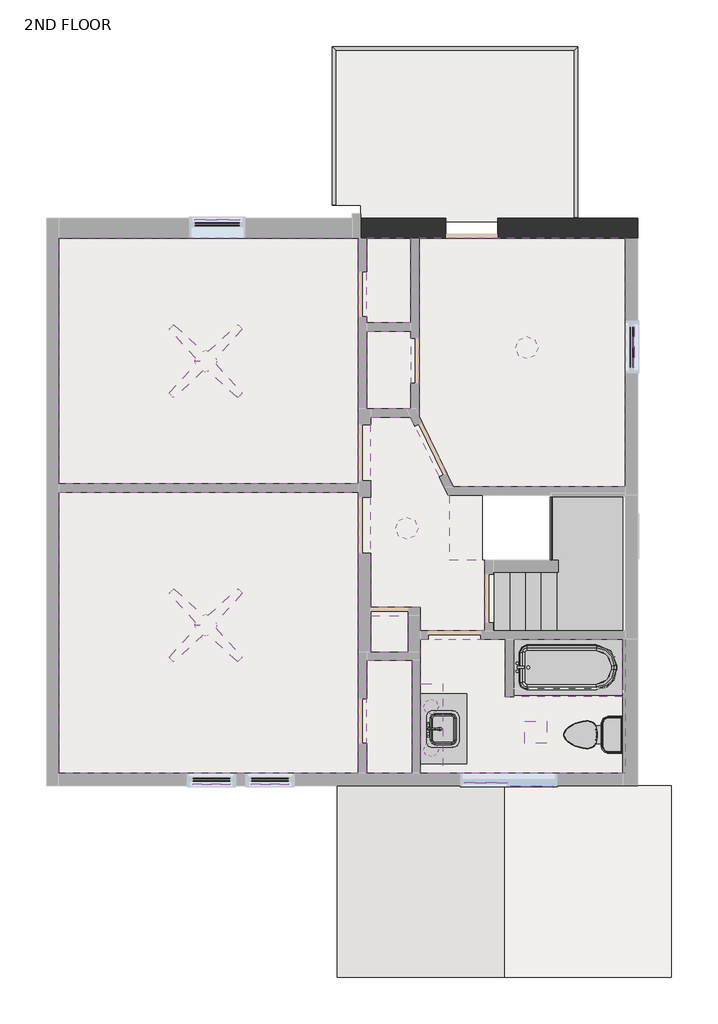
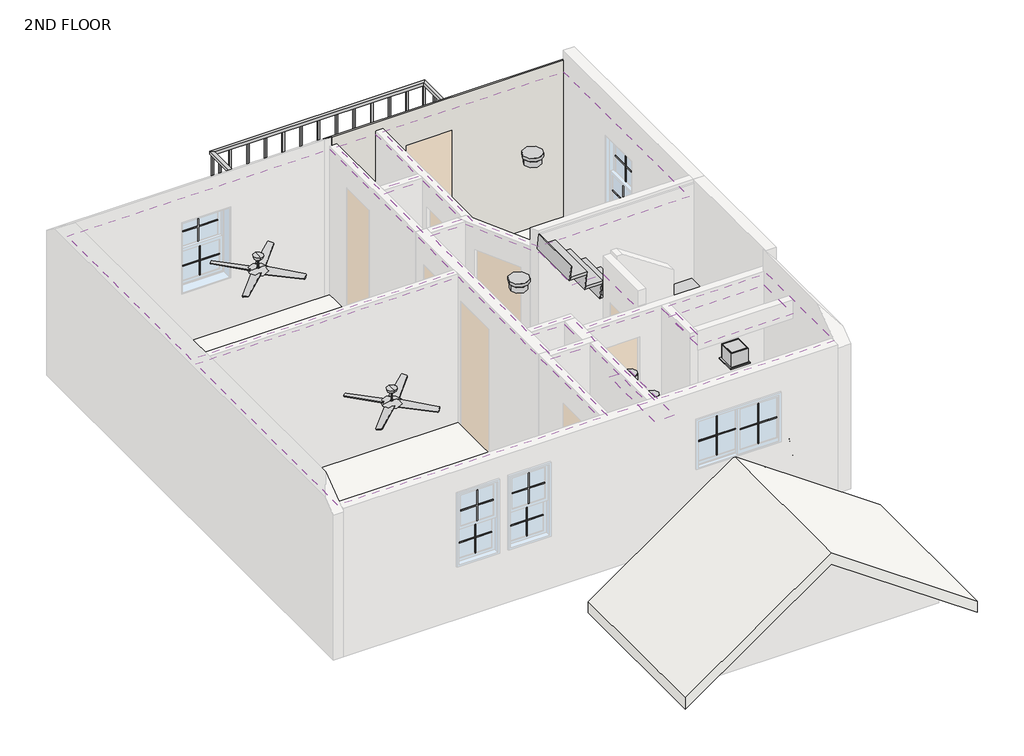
# One storey, part 2 of 2: 14 proxies, 11 coverings, 6 light fixtures, 3 flow terminals, 2 roofs, 1 railing, 1 slab, 1 stair flight, 1 wall.
"""IFC4 building model written with IfcOpenShell, lengths in millimetres."""

from ifc_helpers import new_model, si_unit, point, frame, frame_2d, origin, place, context, project, spatial, polyline, circle_curve, trimmed, segment, composite_curve, outline, extrude, faceted_brep, transform, mapped, element, save
from ifc_brep_helpers import plane_surface, revolved_surface, advanced_brep
from components import exhaust_fan_family1_d98d6599, muntin_pattern_2x2_muntin_pattern_2x2_6bac9242, muntin_pattern_2x2_muntin_pattern_2x2_3440c8d2, muntin_pattern_2x2_muntin_pattern_2x2_f87b2176, muntin_pattern_2x2_muntin_pattern_2x2_90c02736, muntin_pattern_2x2_muntin_pattern_2x2_b8ba09c9, bath_basin_500_x_440mm_22030706, bath_bathtub_m_tub_rectangular_3d_991a02ca, toilet_toilet_5cb52bd4, toilet_toilet_183bbd19, ceiling_fan_4_278a9ec8, light_fixture_03aafe97, light_fixture_643521e1, stair_flight_50mm_tread_25mm_nosing_13mm_riser_0b85ac9d

model = new_model("IFC4")

# Units and contexts
model_context = context("Model", 3, world=origin())
ifc_project = project(units=[si_unit("LENGTHUNIT", "METRE", prefix="MILLI")], contexts=[model_context])

# Site, building, storey
site = spatial("IfcSite", under=ifc_project)
building = spatial("IfcBuilding", under=site)
storey = spatial("IfcBuildingStorey", under=building, Name="2ND FLOOR", Elevation=2895.6)

# Proxies
placement = place(None, origin())
element("IfcBuildingElementProxy", 1, Name="Countertop- Rectangle shape base : 1525 x 762mm", ObjectType="Countertop- Rectangle shape base : 1525 x 762mm", at=placement, inside=storey, context=model_context, shape_type="SolidModel", body=[
    extrude(outline(polyline([(-344.1, -1028.7), (-991.8, -1028.7), (-991.8, -76.2), (-344.1, -76.2), (-344.1, -1028.7)]), holes=[composite_curve([segment(trimmed(circle_curve(frame_2d((-536.8499999, -719.9)), 88.8999999), [point((-536.8499999, -808.7999999))], [point((-447.9500001, -719.9))], True, "CARTESIAN"), True, "CONTINUOUS"), segment(polyline([(-447.9500001, -719.9), (-447.9500001, -393.1500671)]), True, "CONTINUOUS"), segment(trimmed(circle_curve(frame_2d((-532.3000672, -393.1500671)), 84.3500671), [point((-447.9500001, -393.1500671))], [point((-532.3000672, -308.8))], True, "CARTESIAN"), True, "CONTINUOUS"), segment(polyline([(-532.3000672, -308.8), (-824.4500001, -308.8)]), True, "CONTINUOUS"), segment(trimmed(circle_curve(frame_2d((-824.4500001, -372.3)), 63.5), [point((-824.4500001, -308.8))], [point((-887.9500001, -372.3))], True, "CARTESIAN"), True, "CONTINUOUS"), segment(polyline([(-887.9500001, -372.3), (-887.9500001, -745.2999999)]), True, "CONTINUOUS"), segment(trimmed(circle_curve(frame_2d((-824.4500001, -745.2999999)), 63.5), [point((-887.9500001, -745.2999999))], [point((-824.4500001, -808.7999999))], True, "CARTESIAN"), True, "CONTINUOUS"), segment(polyline([(-824.4500001, -808.7999999), (-536.8499999, -808.7999999)]), True, "CONTINUOUS")], self_intersect=False)]), frame((0.0, 0.0, 3771.9), z_axis=(0.0, 0.0, 1.0), x_axis=(1.0, 0.0, 0.0)), (0.0, 0.0, 1.0), 38.1),
    extrude(outline(polyline([(-871.15, -196.85), (-464.75, -196.85), (-464.75, -908.05), (-871.15, -908.05), (-871.15, -196.85)])), frame((0.0, 0.0, 2895.6), z_axis=(0.0, 0.0, 1.0), x_axis=(1.0, 0.0, 0.0)), (0.0, 0.0, 1.0), 101.6),
    advanced_brep(
    [(-972.75, -95.25, 2997.2), (-363.15, -95.25, 2997.2), (-363.15, -1009.65, 2997.2), (-972.75, -1009.65, 2997.2), (-972.75, -95.25, 3771.9), (-972.75, -1009.65, 3771.9), (-363.15, -1009.65, 3771.9), (-363.15, -95.25, 3771.9), (-447.9500001, -719.9, 3771.9), (-536.8499999, -808.7999999, 3771.9), (-824.4500001, -808.7999999, 3771.9), (-887.9500001, -745.2999999, 3771.9), (-887.9500001, -372.3, 3771.9), (-824.4500001, -308.8, 3771.9), (-532.3000672, -308.8, 3771.9), (-447.9500001, -393.1500671, 3771.9), (-536.8499999, -808.7999999, 3458.3380761), (-447.9500001, -719.9, 3458.3380761), (-447.9500001, -393.1500671, 3458.3380761), (-532.3000672, -308.8, 3458.3380761), (-824.4500001, -308.8, 3458.3380761), (-887.9500001, -372.3, 3458.3380761), (-887.9500001, -745.2999999, 3458.3380761), (-824.4500001, -808.7999999, 3458.3380761)],
    [
        (0, 1),
        (1, 2),
        (2, 3),
        (3, 0),
        (4, 5),
        (5, 6),
        (6, 7),
        (7, 4),
        (8, 9, circle_curve(frame((-536.8499999, -719.9, 3771.9), z_axis=(0.0, 0.0, -1.0), x_axis=(0.0, 1.0, 0.0)), 88.8999999)),
        (9, 10),
        (10, 11, circle_curve(frame((-824.4500001, -745.2999999, 3771.9), z_axis=(0.0, 0.0, -1.0), x_axis=(0.0, 1.0, 0.0)), 63.5)),
        (11, 12),
        (12, 13, circle_curve(frame((-824.4500001, -372.3, 3771.9), z_axis=(0.0, 0.0, -1.0), x_axis=(0.0, 1.0, 0.0)), 63.5)),
        (13, 14),
        (14, 15, circle_curve(frame((-532.3000672, -393.1500671, 3771.9), z_axis=(0.0, 0.0, -1.0), x_axis=(0.0, 1.0, 0.0)), 84.3500671)),
        (15, 8),
        (3, 5),
        (4, 0),
        (2, 6),
        (1, 7),
        (16, 17, circle_curve(frame((-536.8499999, -719.9, 3458.3380761), z_axis=(0.0, 0.0, 1.0), x_axis=(0.0, 1.0, 0.0)), 88.8999999)),
        (17, 18),
        (18, 19, circle_curve(frame((-532.3000672, -393.1500671, 3458.3380761), z_axis=(0.0, 0.0, 1.0), x_axis=(0.0, 1.0, 0.0)), 84.3500671)),
        (19, 20),
        (20, 21, circle_curve(frame((-824.4500001, -372.3, 3458.3380761), z_axis=(0.0, 0.0, 1.0), x_axis=(0.0, 1.0, 0.0)), 63.5)),
        (21, 22),
        (22, 23, circle_curve(frame((-824.4500001, -745.2999999, 3458.3380761), z_axis=(0.0, 0.0, 1.0), x_axis=(0.0, 1.0, 0.0)), 63.5)),
        (23, 16),
        (16, 9),
        (8, 17),
        (15, 18),
        (14, 19),
        (13, 20),
        (12, 21),
        (11, 22),
        (10, 23),
    ],
    [
        plane_surface(frame((-972.75, -1009.65, 2997.2), z_axis=(0.0, 0.0, -1.0), x_axis=(0.0, 1.0, 0.0))),
        plane_surface(frame((-972.75, -1009.65, 3771.9), z_axis=(0.0, 0.0, 1.0), x_axis=(0.0, -1.0, 0.0))),
        plane_surface(frame((-972.75, -95.25, 3771.9), z_axis=(-1.0, 0.0, 0.0), x_axis=(0.0, 0.0, -1.0))),
        plane_surface(frame((-972.75, -1009.65, 3771.9), z_axis=(0.0, -1.0, 0.0), x_axis=(0.0, 0.0, -1.0))),
        plane_surface(frame((-363.15, -1009.65, 3771.9), z_axis=(1.0, 0.0, 0.0), x_axis=(0.0, 0.0, -1.0))),
        plane_surface(frame((-363.15, -95.25, 3771.9), z_axis=(0.0, 1.0, 0.0), x_axis=(0.0, 0.0, -1.0))),
        plane_surface(frame((-536.8499999, -631.0000001, 3458.3380761), z_axis=(0.0, 0.0, 1.0), x_axis=(1.0, 0.0, 0.0))),
        revolved_surface(polyline([(-536.8499999, -631.0000001, 3771.9), (-536.8499999, -631.0000001, 3458.3380761)]), (-536.8499999, -719.9, 3458.3380761), (0.0, 0.0, 1.0)),
        plane_surface(frame((-447.9500001, -719.9, 3860.8), z_axis=(-1.0, 0.0, 0.0), x_axis=(0.0, 0.0, -1.0))),
        revolved_surface(polyline([(-532.3000672, -308.8, 3771.9), (-532.3000672, -308.8, 3458.3380761)]), (-532.3000672, -393.1500671, 3458.3380761), (0.0, 0.0, 1.0)),
        plane_surface(frame((-532.3000672, -308.8, 3860.8), z_axis=(0.0, -1.0, 0.0), x_axis=(0.0, 0.0, -1.0))),
        revolved_surface(polyline([(-824.4500001, -308.8, 3771.9), (-824.4500001, -308.8, 3458.3380761)]), (-824.4500001, -372.3, 3458.3380761), (0.0, 0.0, 1.0)),
        plane_surface(frame((-887.9500001, -372.3, 3860.8), z_axis=(1.0, 0.0, 0.0), x_axis=(0.0, 0.0, -1.0))),
        revolved_surface(polyline([(-824.4500001, -681.7999999, 3771.9), (-824.4500001, -681.7999999, 3458.3380761)]), (-824.4500001, -745.2999999, 3458.3380761), (0.0, 0.0, 1.0)),
        plane_surface(frame((-824.4500001, -808.7999999, 3860.8), z_axis=(0.0, 1.0, 0.0), x_axis=(0.0, 0.0, -1.0))),
    ],
    [
        (0, [[1, 2, 3, 4]]),
        (1, [[5, 6, 7, 8], [9, 10, 11, 12, 13, 14, 15, 16]]),
        (2, [[-4, 17, -5, 18]]),
        (3, [[-3, 19, -6, -17]]),
        (4, [[-2, 20, -7, -19]]),
        (5, [[-1, -18, -8, -20]]),
        (6, [[21, 22, 23, 24, 25, 26, 27, 28]]),
        (7, [[-21, 29, -9, 30]]),
        (8, [[-22, -30, -16, 31]]),
        (9, [[-23, -31, -15, 32]]),
        (10, [[-24, -32, -14, 33]]),
        (11, [[-25, -33, -13, 34]]),
        (12, [[-26, -34, -12, 35]]),
        (13, [[-27, -35, -11, 36]]),
        (14, [[-28, -36, -10, -29]]),
    ],
),
])
exhaust_fan_family1_shape = exhaust_fan_family1_d98d6599(model_context)
element("IfcBuildingElementProxy", 2, Name="Exhaust Fan : Family1", ObjectType="Exhaust Fan : Family1", at=placement, inside=storey, context=model_context, shape_type="MappedRepresentation", body=[
    mapped(exhaust_fan_family1_shape, transform((595.7, -601.85, 2844.8), x_axis=(1.0, 0.0, 0.0), y_axis=(0.0, 1.0, 0.0), z_axis=(0.0, 0.0, 1.0))),
])
muntin_pattern_2x2_muntin_pattern_2x2_shape = muntin_pattern_2x2_muntin_pattern_2x2_6bac9242(model_context)
element("IfcBuildingElementProxy", 3, Name="Muntin Pattern_2x2 : Muntin Pattern_2x2", ObjectType="Muntin Pattern_2x2 : Muntin Pattern_2x2", at=placement, inside=storey, context=model_context, shape_type="MappedRepresentation", body=[
    mapped(muntin_pattern_2x2_muntin_pattern_2x2_shape, transform((1945.075, 4636.9, 4340.225), x_axis=(0.0, -1.0, 0.0), y_axis=(1.0, 0.0, 0.0), z_axis=(0.0, 0.0, 1.0))),
])
element("IfcBuildingElementProxy", 4, Name="Muntin Pattern_2x2 : Muntin Pattern_2x2", ObjectType="Muntin Pattern_2x2 : Muntin Pattern_2x2", at=placement, inside=storey, context=model_context, shape_type="MappedRepresentation", body=[
    mapped(muntin_pattern_2x2_muntin_pattern_2x2_shape, transform((1900.625, 4636.9, 3784.6), x_axis=(0.0, -1.0, 0.0), y_axis=(1.0, 0.0, 0.0), z_axis=(0.0, 0.0, 1.0))),
])
muntin_pattern_2x2_muntin_pattern_2x2_2_shape = muntin_pattern_2x2_muntin_pattern_2x2_3440c8d2(model_context)
element("IfcBuildingElementProxy", 5, Name="Muntin Pattern_2x2 : Muntin Pattern_2x2", ObjectType="Muntin Pattern_2x2 : Muntin Pattern_2x2", at=placement, inside=storey, context=model_context, shape_type="MappedRepresentation", body=[
    mapped(muntin_pattern_2x2_muntin_pattern_2x2_2_shape, transform((1945.075, 2065.15, 2917.825), x_axis=(0.0, -1.0, 0.0), y_axis=(1.0, 0.0, 0.0), z_axis=(0.0, 0.0, 1.0))),
])
element("IfcBuildingElementProxy", 6, Name="Muntin Pattern_2x2 : Muntin Pattern_2x2", ObjectType="Muntin Pattern_2x2 : Muntin Pattern_2x2", at=placement, inside=storey, context=model_context, shape_type="MappedRepresentation", body=[
    mapped(muntin_pattern_2x2_muntin_pattern_2x2_2_shape, transform((1900.625, 2065.15, 2362.2), x_axis=(0.0, -1.0, 0.0), y_axis=(1.0, 0.0, 0.0), z_axis=(0.0, 0.0, 1.0))),
])
muntin_pattern_2x2_muntin_pattern_2x2_3_shape = muntin_pattern_2x2_muntin_pattern_2x2_f87b2176(model_context)
element("IfcBuildingElementProxy", 7, Name="Muntin Pattern_2x2 : Muntin Pattern_2x2", ObjectType="Muntin Pattern_2x2 : Muntin Pattern_2x2", at=placement, inside=storey, context=model_context, shape_type="MappedRepresentation", body=[
    mapped(muntin_pattern_2x2_muntin_pattern_2x2_3_shape, transform((-82.1625, -1273.175, 4146.55), x_axis=(-1.0, 0.0, 0.0), y_axis=(0.0, -1.0, 0.0), z_axis=(0.0, 0.0, 1.0))),
])
element("IfcBuildingElementProxy", 8, Name="Muntin Pattern_2x2 : Muntin Pattern_2x2", ObjectType="Muntin Pattern_2x2 : Muntin Pattern_2x2", at=placement, inside=storey, context=model_context, shape_type="MappedRepresentation", body=[
    mapped(muntin_pattern_2x2_muntin_pattern_2x2_3_shape, transform((536.9625, -1317.625, 4146.55), x_axis=(-1.0, 0.0, 0.0), y_axis=(0.0, -1.0, 0.0), z_axis=(0.0, 0.0, 1.0))),
])
muntin_pattern_2x2_muntin_pattern_2x2_4_shape = muntin_pattern_2x2_muntin_pattern_2x2_90c02736(model_context)
element("IfcBuildingElementProxy", 9, Name="Muntin Pattern_2x2 : Muntin Pattern_2x2", ObjectType="Muntin Pattern_2x2 : Muntin Pattern_2x2", at=placement, inside=storey, context=model_context, shape_type="MappedRepresentation", body=[
    mapped(muntin_pattern_2x2_muntin_pattern_2x2_4_shape, transform((-3017.45, -1292.225, 4391.025), x_axis=(-1.0, 0.0, 0.0), y_axis=(0.0, -1.0, 0.0), z_axis=(0.0, 0.0, 1.0))),
])
element("IfcBuildingElementProxy", 10, Name="Muntin Pattern_2x2 : Muntin Pattern_2x2", ObjectType="Muntin Pattern_2x2 : Muntin Pattern_2x2", at=placement, inside=storey, context=model_context, shape_type="MappedRepresentation", body=[
    mapped(muntin_pattern_2x2_muntin_pattern_2x2_4_shape, transform((-3017.45, -1247.775, 3835.4), x_axis=(-1.0, 0.0, 0.0), y_axis=(0.0, -1.0, 0.0), z_axis=(0.0, 0.0, 1.0))),
])
element("IfcBuildingElementProxy", 11, Name="Muntin Pattern_2x2 : Muntin Pattern_2x2", ObjectType="Muntin Pattern_2x2 : Muntin Pattern_2x2", at=placement, inside=storey, context=model_context, shape_type="MappedRepresentation", body=[
    mapped(muntin_pattern_2x2_muntin_pattern_2x2_4_shape, transform((-3817.55, -1292.225, 4391.025), x_axis=(-1.0, 0.0, 0.0), y_axis=(0.0, -1.0, 0.0), z_axis=(0.0, 0.0, 1.0))),
])
element("IfcBuildingElementProxy", 12, Name="Muntin Pattern_2x2 : Muntin Pattern_2x2", ObjectType="Muntin Pattern_2x2 : Muntin Pattern_2x2", at=placement, inside=storey, context=model_context, shape_type="MappedRepresentation", body=[
    mapped(muntin_pattern_2x2_muntin_pattern_2x2_4_shape, transform((-3817.55, -1247.775, 3835.4), x_axis=(-1.0, 0.0, 0.0), y_axis=(0.0, -1.0, 0.0), z_axis=(0.0, 0.0, 1.0))),
])
muntin_pattern_2x2_muntin_pattern_2x2_5_shape = muntin_pattern_2x2_muntin_pattern_2x2_b8ba09c9(model_context)
element("IfcBuildingElementProxy", 13, Name="Muntin Pattern_2x2 : Muntin Pattern_2x2", ObjectType="Muntin Pattern_2x2 : Muntin Pattern_2x2", at=placement, inside=storey, context=model_context, shape_type="MappedRepresentation", body=[
    mapped(muntin_pattern_2x2_muntin_pattern_2x2_5_shape, transform((-3735.0, 6353.175, 4314.825), x_axis=(1.0, 0.0, 0.0), y_axis=(0.0, 1.0, 0.0), z_axis=(0.0, 0.0, 1.0))),
])
element("IfcBuildingElementProxy", 14, Name="Muntin Pattern_2x2 : Muntin Pattern_2x2", ObjectType="Muntin Pattern_2x2 : Muntin Pattern_2x2", at=placement, inside=storey, context=model_context, shape_type="MappedRepresentation", body=[
    mapped(muntin_pattern_2x2_muntin_pattern_2x2_5_shape, transform((-3735.0, 6308.725, 3784.6), x_axis=(1.0, 0.0, 0.0), y_axis=(0.0, 1.0, 0.0), z_axis=(0.0, 0.0, 1.0))),
])

# Coverings
element("IfcCovering", 15, ObjectType="Bulk Head", at=placement, inside=storey, context=model_context, shape_type="SweptSolid", body=[
    extrude(outline(polyline([(-667.95, -1162.05), (-972.75, -1162.05), (-972.75, 57.15), (-667.95, 57.15), (-667.95, -1162.05)]), holes=[composite_curve([segment(trimmed(circle_curve(frame_2d((-826.7, -254.0)), 87.3), [point((-739.4, -254.0))], [point((-914.0, -254.0))], True, "CARTESIAN"), True, "CONTINUOUS"), segment(trimmed(circle_curve(frame_2d((-826.7, -254.0)), 87.3), [point((-914.0, -254.0))], [point((-739.4, -254.0))], True, "CARTESIAN"), True, "CONTINUOUS")], self_intersect=False), composite_curve([segment(trimmed(circle_curve(frame_2d((-826.7, -838.2)), 87.3), [point((-739.4, -838.2))], [point((-914.0, -838.2))], True, "CARTESIAN"), True, "CONTINUOUS"), segment(trimmed(circle_curve(frame_2d((-826.7, -838.2)), 87.3), [point((-914.0, -838.2))], [point((-739.4, -838.2))], True, "CARTESIAN"), True, "CONTINUOUS")], self_intersect=False)]), frame((0.0, 0.0, 4927.6), z_axis=(0.0, 0.0, 1.0), x_axis=(1.0, 0.0, 0.0)), (0.0, 0.0, 1.0), 152.4),
])
element("IfcCovering", 16, ObjectType="Bulk Head", at=placement, inside=storey, context=model_context, shape_type="SweptSolid", body=[
    extrude(outline(polyline([(1776.8, -119.25), (297.25, -119.25), (297.25, 661.8), (1776.8, 661.8), (1776.8, -119.25)])), frame((0.0, 0.0, 5105.4), z_axis=(0.0, 0.0, 1.0), x_axis=(1.0, 0.0, 0.0)), (0.0, 0.0, 1.0), 152.4),
])
element("IfcCovering", 17, ObjectType="1/2\" Ceiling", at=placement, inside=storey, context=model_context, shape_type="SweptSolid", body=[
    extrude(outline(polyline([(-1817.3, 2776.35), (-5894.0, 2776.35), (-5894.0, 6121.4), (-1817.3, 6121.4), (-1817.3, 3741.55), (-1817.3, 2776.35)])), frame((0.0, 0.0, 5283.2), z_axis=(0.0, 0.0, 1.0), x_axis=(1.0, 0.0, 0.0)), (0.0, 0.0, 1.0), 12.7),
])
element("IfcCovering", 18, ObjectType="1/2\" Ceiling", at=placement, inside=storey, context=model_context, shape_type="SweptSolid", body=[
    extrude(outline(polyline([(-1703.0, 6121.4), (-1106.1, 6121.4), (-1106.1, 4967.1), (-1703.0, 4967.1), (-1703.0, 6121.4)])), frame((0.0, 0.0, 5283.2), z_axis=(0.0, 0.0, 1.0), x_axis=(1.0, 0.0, 0.0)), (0.0, 0.0, 1.0), 12.7),
])
element("IfcCovering", 19, ObjectType="1/2\" Ceiling", at=placement, inside=storey, context=model_context, shape_type="SweptSolid", body=[
    extrude(outline(polyline([(-1703.0, 3798.7), (-1703.0, 4852.8), (-1106.1, 4852.8), (-1106.1, 3798.7), (-1703.0, 3798.7)])), frame((0.0, 0.0, 5283.2), z_axis=(0.0, 0.0, 1.0), x_axis=(1.0, 0.0, 0.0)), (0.0, 0.0, 1.0), 12.7),
])
element("IfcCovering", 20, ObjectType="1/2\" Ceiling", at=placement, inside=storey, context=model_context, shape_type="SweptSolid", body=[
    extrude(outline(polyline([(-991.8, 6121.4), (1814.9, 6121.4), (1814.9, 2738.25), (-525.5630649, 2738.25), (-991.8, 3699.6469835), (-991.8, 6121.4)])), frame((0.0, 0.0, 5283.2), z_axis=(0.0, 0.0, 1.0), x_axis=(1.0, 0.0, 0.0)), (0.0, 0.0, 1.0), 12.7),
])
element("IfcCovering", 21, ObjectType="1/2\" Ceiling", at=placement, inside=storey, context=model_context, shape_type="SweptSolid", body=[
    extrude(outline(polyline([(-1087.05, -1162.05), (-1703.0, -1162.05), (-1703.0, 374.65), (-1087.05, 374.65), (-1087.05, -1162.05)])), frame((0.0, 0.0, 5283.2), z_axis=(0.0, 0.0, 1.0), x_axis=(1.0, 0.0, 0.0)), (0.0, 0.0, 1.0), 12.7),
])
element("IfcCovering", 22, ObjectType="1/2\" Ceiling", at=placement, inside=storey, context=model_context, shape_type="SweptSolid", body=[
    extrude(outline(polyline([(-1137.85, 488.95), (-1652.2, 488.95), (-1652.2, 984.25), (-1137.85, 984.25), (-1137.85, 488.95)])), frame((0.0, 0.0, 5283.2), z_axis=(0.0, 0.0, 1.0), x_axis=(1.0, 0.0, 0.0)), (0.0, 0.0, 1.0), 12.7),
])
element("IfcCovering", 23, ObjectType="1/2\" Ceiling", at=placement, inside=storey, context=model_context, shape_type="SweptSolid", body=[
    extrude(outline(polyline([(-5894.0, -1162.05), (-5894.0, 2662.05), (-1817.3, 2662.05), (-1817.3, 439.55), (-1817.3, -1162.05), (-5894.0, -1162.05)])), frame((0.0, 0.0, 5283.2), z_axis=(0.0, 0.0, 1.0), x_axis=(1.0, 0.0, 0.0)), (0.0, 0.0, 1.0), 12.7),
])
element("IfcCovering", 24, ObjectType="1/2\" Ceiling", at=placement, inside=storey, context=model_context, shape_type="SweptSolid", body=[
    extrude(outline(polyline([(1814.9, -1162.05), (-972.75, -1162.05), (-972.75, 439.55), (-972.75, 661.8), (182.95, 661.8), (182.95, -119.25), (297.25, -119.25), (297.25, 661.8), (1814.9, 661.8), (1814.9, -1162.05)])), frame((0.0, 0.0, 5283.2), z_axis=(0.0, 0.0, 1.0), x_axis=(1.0, 0.0, 0.0)), (0.0, 0.0, 1.0), 12.7),
])
element("IfcCovering", 25, ObjectType="1/2\" Ceiling", at=placement, inside=storey, context=model_context, shape_type="SweptSolid", body=[
    extrude(outline(polyline([(-972.75, 1098.55), (-1652.2, 1098.55), (-1652.2, 3684.4), (-1111.4375439, 3684.4), (-597.164079, 2623.95), (-578.8083744, 2623.95), (-578.8083744, 1741.3), (-96.45, 1741.3), (-96.45, 776.1), (-972.75, 776.1), (-972.75, 1098.55)])), frame((0.0, 0.0, 5283.2), z_axis=(0.0, 0.0, 1.0), x_axis=(1.0, 0.0, 0.0)), (0.0, 0.0, 1.0), 12.7),
])

# Flow terminals
bath_basin_500_x_440mm_shape = bath_basin_500_x_440mm_22030706(model_context)
element("IfcFlowTerminal", 26, ObjectType="Bath-Basin : 500 x 440mm", at=placement, inside=storey, context=model_context, shape_type="MappedRepresentation", body=[
    mapped(bath_basin_500_x_440mm_shape, transform((-707.8045989, -574.4892406, 3035.3), x_axis=(0.0, 1.0, 0.0), y_axis=(-1.0, 0.0, 0.0), z_axis=(0.0, 0.0, 1.0))),
])
bath_bathtub_m_tub_rectangular_3d_shape = bath_bathtub_m_tub_rectangular_3d_991a02ca(model_context)
element("IfcFlowTerminal", 27, ObjectType="Bath-Bathtub : M_Tub-Rectangular-3D", at=placement, inside=storey, context=model_context, shape_type="MappedRepresentation", body=[
    mapped(bath_bathtub_m_tub_rectangular_3d_shape, transform((1407.8529687, 718.95, 2895.6), x_axis=(1.0, 0.0, 0.0), y_axis=(0.0, 1.0, 0.0), z_axis=(0.0, 0.0, 1.0))),
])
toilet_toilet_shape = toilet_toilet_5cb52bd4(model_context)
toilet_toilet_2_shape = toilet_toilet_183bbd19(model_context)
element("IfcFlowTerminal", 28, ObjectType="Toilet : Toilet", at=placement, inside=storey, context=model_context, shape_type="MappedRepresentation", body=[
    mapped(toilet_toilet_shape, transform((1282.1039726, -635.6039726, 2895.6), x_axis=(0.0, -1.0, 0.0), y_axis=(1.0, 0.0, 0.0), z_axis=(0.0, 0.0, 1.0))),
    mapped(toilet_toilet_2_shape, transform((1282.1039726, -635.6039726, 2895.6), x_axis=(0.0, -1.0, 0.0), y_axis=(1.0, 0.0, 0.0), z_axis=(0.0, 0.0, 1.0))),
])

# Light fixtures
ceiling_fan_4_shape = ceiling_fan_4_278a9ec8(model_context)
element("IfcLightFixture", 29, ObjectType="Ceiling Fan : 4'", at=placement, inside=storey, context=model_context, shape_type="MappedRepresentation", body=[
    mapped(ceiling_fan_4_shape, transform((-3893.75, 853.5434479, 5283.2), x_axis=(1.0, 0.0, 0.0), y_axis=(0.0, -1.0, 0.0), z_axis=(0.0, 0.0, -1.0))),
])
element("IfcLightFixture", 30, ObjectType="Ceiling Fan : 4'", at=placement, inside=storey, context=model_context, shape_type="MappedRepresentation", body=[
    mapped(ceiling_fan_4_shape, transform((-3893.75, 4446.4, 5283.2), x_axis=(1.0, 0.0, 0.0), y_axis=(0.0, -1.0, 0.0), z_axis=(0.0, 0.0, -1.0))),
])
light_fixture_shape = light_fixture_03aafe97(model_context)
element("IfcLightFixture", 31, ObjectType="Ceiling Mounted Light : 2-0\"", at=placement, inside=storey, context=model_context, shape_type="MappedRepresentation", body=[
    mapped(light_fixture_shape, transform((-1156.9, 2173.1, 2844.8), x_axis=(1.0, 0.0, 0.0), y_axis=(0.0, 1.0, 0.0), z_axis=(0.0, 0.0, 1.0))),
])
element("IfcLightFixture", 32, ObjectType="Ceiling Mounted Light : 2-0\"", at=placement, inside=storey, context=model_context, shape_type="MappedRepresentation", body=[
    mapped(light_fixture_shape, transform((475.05, 4629.15, 2844.8), x_axis=(1.0, 0.0, 0.0), y_axis=(0.0, 1.0, 0.0), z_axis=(0.0, 0.0, 1.0))),
])
light_fixture_2_shape = light_fixture_643521e1(model_context)
element("IfcLightFixture", 33, ObjectType="Recessed Pot Light : 8\"", at=placement, inside=storey, context=model_context, shape_type="MappedRepresentation", body=[
    mapped(light_fixture_2_shape, transform((-826.7, -254.0, 2489.2), x_axis=(1.0, 0.0, 0.0), y_axis=(0.0, 1.0, 0.0), z_axis=(0.0, 0.0, 1.0))),
])
element("IfcLightFixture", 34, ObjectType="Recessed Pot Light : 8\"", at=placement, inside=storey, context=model_context, shape_type="MappedRepresentation", body=[
    mapped(light_fixture_2_shape, transform((-826.7, -838.2, 2489.2), x_axis=(1.0, 0.0, 0.0), y_axis=(0.0, 1.0, 0.0), z_axis=(0.0, 0.0, 1.0))),
])

# Railing
element("IfcRailing", 35, ObjectType="900mm Rectangular", at=placement, inside=storey, context=model_context, shape_type="SolidModel", body=[
    faceted_brep([(-2172.5, 6573.2, 3795.6), (-2172.5, 6573.2, 3745.6), (-2122.5, 6573.2, 3745.6), (-2122.5, 6573.2, 3795.6), (1166.8, 6402.2, 3795.6), (1116.8, 6402.2, 3795.6), (1116.8, 6402.2, 3745.6), (1166.8, 6402.2, 3745.6), (-2172.5, 8725.9, 3795.6), (-2172.5, 8725.9, 3745.6), (-2122.5, 8675.9, 3745.6), (-2122.5, 8675.9, 3795.6), (1166.8, 8725.9, 3795.6), (1166.8, 8725.9, 3745.6), (1116.8, 8675.9, 3745.6), (1116.8, 8675.9, 3795.6)], [[[0, 1, 2, 3]], [[4, 5, 6, 7]], [[1, 0, 8, 9]], [[2, 1, 9, 10]], [[3, 2, 10, 11]], [[0, 3, 11, 8]], [[9, 8, 12, 13]], [[10, 9, 13, 14]], [[11, 10, 14, 15]], [[8, 11, 15, 12]], [[13, 12, 4, 7]], [[14, 13, 7, 6]], [[15, 14, 6, 5]], [[12, 15, 5, 4]]]),
    extrude(outline(polyline([(1129.3, 6513.4), (1154.3, 6513.4), (1154.3, 6488.4), (1129.3, 6488.4), (1129.3, 6513.4)])), frame((0.0, 0.0, 2895.6), z_axis=(0.0, 0.0, 1.0), x_axis=(1.0, 0.0, 0.0)), (0.0, 0.0, 1.0), 850.0),
    extrude(outline(polyline([(1129.3, 6788.4), (1154.3, 6788.4), (1154.3, 6763.4), (1129.3, 6763.4), (1129.3, 6788.4)])), frame((0.0, 0.0, 2895.6), z_axis=(0.0, 0.0, 1.0), x_axis=(1.0, 0.0, 0.0)), (0.0, 0.0, 1.0), 850.0),
    extrude(outline(polyline([(1129.3, 7063.4), (1154.3, 7063.4), (1154.3, 7038.4), (1129.3, 7038.4), (1129.3, 7063.4)])), frame((0.0, 0.0, 2895.6), z_axis=(0.0, 0.0, 1.0), x_axis=(1.0, 0.0, 0.0)), (0.0, 0.0, 1.0), 850.0),
    extrude(outline(polyline([(1129.3, 7338.4), (1154.3, 7338.4), (1154.3, 7313.4), (1129.3, 7313.4), (1129.3, 7338.4)])), frame((0.0, 0.0, 2895.6), z_axis=(0.0, 0.0, 1.0), x_axis=(1.0, 0.0, 0.0)), (0.0, 0.0, 1.0), 850.0),
    extrude(outline(polyline([(1129.3, 7613.4), (1154.3, 7613.4), (1154.3, 7588.4), (1129.3, 7588.4), (1129.3, 7613.4)])), frame((0.0, 0.0, 2895.6), z_axis=(0.0, 0.0, 1.0), x_axis=(1.0, 0.0, 0.0)), (0.0, 0.0, 1.0), 850.0),
    extrude(outline(polyline([(1129.3, 7888.4), (1154.3, 7888.4), (1154.3, 7863.4), (1129.3, 7863.4), (1129.3, 7888.4)])), frame((0.0, 0.0, 2895.6), z_axis=(0.0, 0.0, 1.0), x_axis=(1.0, 0.0, 0.0)), (0.0, 0.0, 1.0), 850.0),
    extrude(outline(polyline([(1129.3, 8163.4), (1154.3, 8163.4), (1154.3, 8138.4), (1129.3, 8138.4), (1129.3, 8163.4)])), frame((0.0, 0.0, 2895.6), z_axis=(0.0, 0.0, 1.0), x_axis=(1.0, 0.0, 0.0)), (0.0, 0.0, 1.0), 850.0),
    extrude(outline(polyline([(1129.3, 8438.4), (1154.3, 8438.4), (1154.3, 8413.4), (1129.3, 8413.4), (1129.3, 8438.4)])), frame((0.0, 0.0, 2895.6), z_axis=(0.0, 0.0, 1.0), x_axis=(1.0, 0.0, 0.0)), (0.0, 0.0, 1.0), 850.0),
    extrude(outline(polyline([(865.0, 8688.4), (865.0, 8713.4), (890.0, 8713.4), (890.0, 8688.4), (865.0, 8688.4)])), frame((0.0, 0.0, 2895.6), z_axis=(0.0, 0.0, 1.0), x_axis=(1.0, 0.0, 0.0)), (0.0, 0.0, 1.0), 850.0),
    extrude(outline(polyline([(590.0, 8688.4), (590.0, 8713.4), (615.0, 8713.4), (615.0, 8688.4), (590.0, 8688.4)])), frame((0.0, 0.0, 2895.6), z_axis=(0.0, 0.0, 1.0), x_axis=(1.0, 0.0, 0.0)), (0.0, 0.0, 1.0), 850.0),
    extrude(outline(polyline([(315.0, 8688.4), (315.0, 8713.4), (340.0, 8713.4), (340.0, 8688.4), (315.0, 8688.4)])), frame((0.0, 0.0, 2895.6), z_axis=(0.0, 0.0, 1.0), x_axis=(1.0, 0.0, 0.0)), (0.0, 0.0, 1.0), 850.0),
    extrude(outline(polyline([(40.0, 8688.4), (40.0, 8713.4), (65.0, 8713.4), (65.0, 8688.4), (40.0, 8688.4)])), frame((0.0, 0.0, 2895.6), z_axis=(0.0, 0.0, 1.0), x_axis=(1.0, 0.0, 0.0)), (0.0, 0.0, 1.0), 850.0),
    extrude(outline(polyline([(-235.0, 8688.4), (-235.0, 8713.4), (-210.0, 8713.4), (-210.0, 8688.4), (-235.0, 8688.4)])), frame((0.0, 0.0, 2895.6), z_axis=(0.0, 0.0, 1.0), x_axis=(1.0, 0.0, 0.0)), (0.0, 0.0, 1.0), 850.0),
    extrude(outline(polyline([(-510.0, 8688.4), (-510.0, 8713.4), (-485.0, 8713.4), (-485.0, 8688.4), (-510.0, 8688.4)])), frame((0.0, 0.0, 2895.6), z_axis=(0.0, 0.0, 1.0), x_axis=(1.0, 0.0, 0.0)), (0.0, 0.0, 1.0), 850.0),
    extrude(outline(polyline([(-785.0, 8688.4), (-785.0, 8713.4), (-760.0, 8713.4), (-760.0, 8688.4), (-785.0, 8688.4)])), frame((0.0, 0.0, 2895.6), z_axis=(0.0, 0.0, 1.0), x_axis=(1.0, 0.0, 0.0)), (0.0, 0.0, 1.0), 850.0),
    extrude(outline(polyline([(-1060.0, 8688.4), (-1060.0, 8713.4), (-1035.0, 8713.4), (-1035.0, 8688.4), (-1060.0, 8688.4)])), frame((0.0, 0.0, 2895.6), z_axis=(0.0, 0.0, 1.0), x_axis=(1.0, 0.0, 0.0)), (0.0, 0.0, 1.0), 850.0),
    extrude(outline(polyline([(-1335.0, 8688.4), (-1335.0, 8713.4), (-1310.0, 8713.4), (-1310.0, 8688.4), (-1335.0, 8688.4)])), frame((0.0, 0.0, 2895.6), z_axis=(0.0, 0.0, 1.0), x_axis=(1.0, 0.0, 0.0)), (0.0, 0.0, 1.0), 850.0),
    extrude(outline(polyline([(-1610.0, 8688.4), (-1610.0, 8713.4), (-1585.0, 8713.4), (-1585.0, 8688.4), (-1610.0, 8688.4)])), frame((0.0, 0.0, 2895.6), z_axis=(0.0, 0.0, 1.0), x_axis=(1.0, 0.0, 0.0)), (0.0, 0.0, 1.0), 850.0),
    extrude(outline(polyline([(-1885.0, 8688.4), (-1885.0, 8713.4), (-1860.0, 8713.4), (-1860.0, 8688.4), (-1885.0, 8688.4)])), frame((0.0, 0.0, 2895.6), z_axis=(0.0, 0.0, 1.0), x_axis=(1.0, 0.0, 0.0)), (0.0, 0.0, 1.0), 850.0),
    extrude(outline(polyline([(-2135.0, 8485.7), (-2160.0, 8485.7), (-2160.0, 8510.7), (-2135.0, 8510.7), (-2135.0, 8485.7)])), frame((0.0, 0.0, 2895.6), z_axis=(0.0, 0.0, 1.0), x_axis=(1.0, 0.0, 0.0)), (0.0, 0.0, 1.0), 850.0),
    extrude(outline(polyline([(-2135.0, 8210.7), (-2160.0, 8210.7), (-2160.0, 8235.7), (-2135.0, 8235.7), (-2135.0, 8210.7)])), frame((0.0, 0.0, 2895.6), z_axis=(0.0, 0.0, 1.0), x_axis=(1.0, 0.0, 0.0)), (0.0, 0.0, 1.0), 850.0),
    extrude(outline(polyline([(-2135.0, 7935.7), (-2160.0, 7935.7), (-2160.0, 7960.7), (-2135.0, 7960.7), (-2135.0, 7935.7)])), frame((0.0, 0.0, 2895.6), z_axis=(0.0, 0.0, 1.0), x_axis=(1.0, 0.0, 0.0)), (0.0, 0.0, 1.0), 850.0),
    extrude(outline(polyline([(-2135.0, 7660.7), (-2160.0, 7660.7), (-2160.0, 7685.7), (-2135.0, 7685.7), (-2135.0, 7660.7)])), frame((0.0, 0.0, 2895.6), z_axis=(0.0, 0.0, 1.0), x_axis=(1.0, 0.0, 0.0)), (0.0, 0.0, 1.0), 850.0),
    extrude(outline(polyline([(-2135.0, 7385.7), (-2160.0, 7385.7), (-2160.0, 7410.7), (-2135.0, 7410.7), (-2135.0, 7385.7)])), frame((0.0, 0.0, 2895.6), z_axis=(0.0, 0.0, 1.0), x_axis=(1.0, 0.0, 0.0)), (0.0, 0.0, 1.0), 850.0),
    extrude(outline(polyline([(-2135.0, 7110.7), (-2160.0, 7110.7), (-2160.0, 7135.7), (-2135.0, 7135.7), (-2135.0, 7110.7)])), frame((0.0, 0.0, 2895.6), z_axis=(0.0, 0.0, 1.0), x_axis=(1.0, 0.0, 0.0)), (0.0, 0.0, 1.0), 850.0),
    extrude(outline(polyline([(-2135.0, 6835.7), (-2160.0, 6835.7), (-2160.0, 6860.7), (-2135.0, 6860.7), (-2135.0, 6835.7)])), frame((0.0, 0.0, 2895.6), z_axis=(0.0, 0.0, 1.0), x_axis=(1.0, 0.0, 0.0)), (0.0, 0.0, 1.0), 850.0),
    extrude(outline(polyline([(1129.3, 8688.4), (1129.3, 8713.4), (1154.3, 8713.4), (1154.3, 8688.4), (1129.3, 8688.4)])), frame((0.0, 0.0, 2895.6), z_axis=(0.0, 0.0, 1.0), x_axis=(1.0, 0.0, 0.0)), (0.0, 0.0, 1.0), 850.0),
    extrude(outline(polyline([(-2135.0, 8688.4), (-2160.0, 8688.4), (-2160.0, 8713.4), (-2135.0, 8713.4), (-2135.0, 8688.4)])), frame((0.0, 0.0, 2895.6), z_axis=(0.0, 0.0, 1.0), x_axis=(1.0, 0.0, 0.0)), (0.0, 0.0, 1.0), 850.0),
    extrude(outline(polyline([(1129.3, 6427.2), (1154.3, 6427.2), (1154.3, 6402.2), (1129.3, 6402.2), (1129.3, 6427.2)])), frame((0.0, 0.0, 2895.6), z_axis=(0.0, 0.0, 1.0), x_axis=(1.0, 0.0, 0.0)), (0.0, 0.0, 1.0), 850.0),
    extrude(outline(polyline([(-2135.0, 6573.2), (-2160.0, 6573.2), (-2160.0, 6598.2), (-2135.0, 6598.2), (-2135.0, 6573.2)])), frame((0.0, 0.0, 2895.6), z_axis=(0.0, 0.0, 1.0), x_axis=(1.0, 0.0, 0.0)), (0.0, 0.0, 1.0), 850.0),
])

# Roofs
element("IfcRoof", 36, ObjectType="Wood Rafter 184mm - Asphalt Shingles", at=placement, inside=storey, context=model_context, shape_type="SweptSolid", body=[
    extrude(outline(polyline([(-2172.9, 6567.3), (-2172.9, 8700.9), (1167.2, 8700.9), (1167.2, 6388.1), (81.35, 6388.1), (81.35, 6344.6), (-629.85, 6344.6), (-629.85, 6388.1), (-1785.55, 6388.1), (-1785.55, 6567.3), (-2172.9, 6567.3)])), frame((0.0, 0.0, 2743.2), z_axis=(0.0, 0.0, 1.0), x_axis=(1.0, 0.0, 0.0)), (0.0, 0.0, 1.0), 152.4),
])
element("IfcRoof", 37, ObjectType="Wood Rafter 184mm - Asphalt Shingles", at=placement, inside=storey, context=model_context, shape_type="SweptSolid", body=[
    extrude(outline(polyline([(2472.0460473, 2437.2), (4061.604685, 167.075), (2472.0460473, -2103.05), (2286.0, -2103.05), (3875.5586377, 167.075), (2286.0, 2437.2), (2472.0460473, 2437.2)])), frame((0.0, -3937.0, 0.0), z_axis=(0.0, 1.0, 0.0), x_axis=(0.0, 0.0, 1.0)), (0.0, 0.0, 1.0), 2609.85),
])

# Slab
element("IfcSlab", 38, ObjectType="Ledge - 2\"", at=placement, inside=storey, context=model_context, shape_type="SweptSolid", body=[
    extrude(outline(polyline([(1814.9, 6121.4), (1814.9, 2738.25), (-130.3697044, 2738.25), (-130.3697044, 1741.3), (900.5, 1741.3), (900.5, 776.1), (1776.8, 776.1), (1776.8, -1162.05), (-5894.0, -1162.05), (-5894.0, 6121.4), (1814.9, 6121.4)])), frame((0.0, 0.0, 2844.8), z_axis=(0.0, 0.0, 1.0), x_axis=(1.0, 0.0, 0.0)), (0.0, 0.0, 1.0), 50.8),
])

# Stair flight
stair_flight_50mm_tread_25mm_nosing_13mm_riser_shape = stair_flight_50mm_tread_25mm_nosing_13mm_riser_0b85ac9d(model_context)
element("IfcStairFlight", 39, ObjectType="50mm Tread 25mm Nosing 13mm Riser", at=placement, inside=storey, context=model_context, shape_type="MappedRepresentation", body=[
    mapped(stair_flight_50mm_tread_25mm_nosing_13mm_riser_shape, transform((0.0, 0.0, 0.0), x_axis=(1.0, 0.0, 0.0), y_axis=(0.0, 1.0, 0.0), z_axis=(0.0, 0.0, 1.0))),
])

# Wall
element("IfcWall", 40, ObjectType="Planitar - Generic 10 1/2\"", at=placement, inside=storey, context=model_context, shape_type="Brep", body=[
    faceted_brep([(-1785.55, 6121.4, 2895.6), (-1703.0, 6121.4, 2895.6), (-1106.1, 6121.4, 2895.6), (-991.8, 6121.4, 2895.6), (-629.85, 6121.4, 2895.6), (-629.85, 6121.4, 4927.6), (81.35, 6121.4, 4927.6), (81.35, 6121.4, 2895.6), (1814.9, 6121.4, 2895.6), (1980.0, 6121.4, 2895.6), (1980.0, 6121.4, 5438.1020766), (1952.5277072, 6121.4, 5470.8422803), (-1785.55, 6121.4, 5470.8422803), (-629.85, 6388.1, 4927.6), (-629.85, 6388.1, 2895.6), (-1785.55, 6388.1, 2895.6), (-1785.55, 6388.1, 5275.8325877), (1980.0, 6388.1, 5275.8325877), (1980.0, 6388.1, 2895.6), (81.35, 6388.1, 2895.6), (81.35, 6388.1, 4927.6), (1980.0, 6166.176299, 5438.1020766)], [[[0, 1, 2, 3, 4, 5, 6, 7, 8, 9, 10, 11, 12]], [[13, 14, 15, 16, 17, 18, 19, 20]], [[19, 18, 9, 8, 7]], [[15, 14, 4, 3, 2, 1, 0]], [[10, 9, 18, 17, 21]], [[12, 11, 21, 17, 16]], [[11, 10, 21]], [[7, 6, 20, 19]], [[6, 5, 13, 20]], [[5, 4, 14, 13]], [[0, 12, 16, 15]]]),
])

save(model, "model.ifc")
